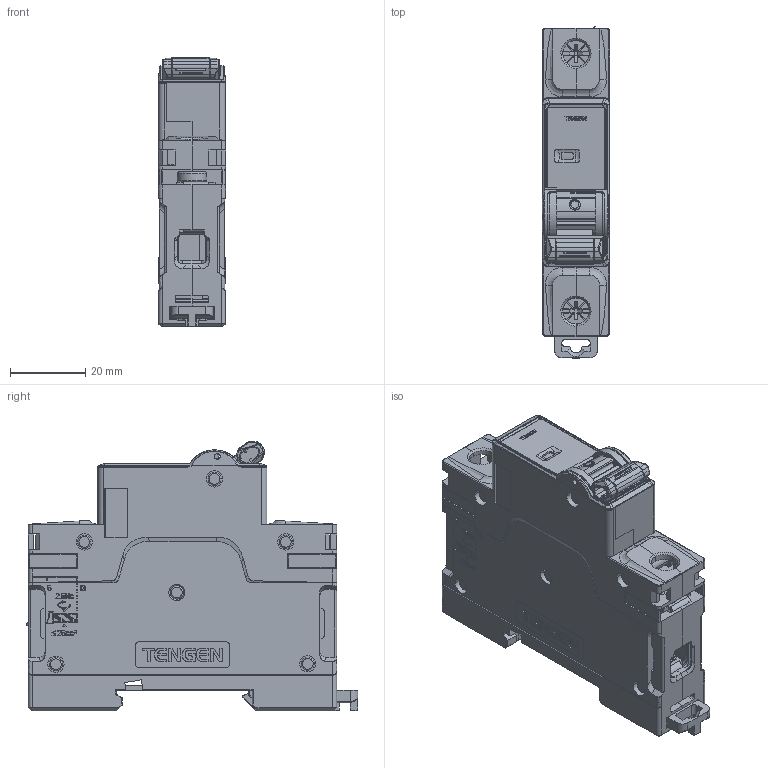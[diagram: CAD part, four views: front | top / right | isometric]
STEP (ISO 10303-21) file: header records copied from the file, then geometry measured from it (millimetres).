
FILE_DESCRIPTION (( 'STEP AP214' ), '1' );
FILE_NAME ('3D Model TGB3-63 1P.STEP', '2025-12-15T14:12:16', ( '' ), ( '' ), 'SwSTEP 2.0', 'SolidWorks 2024', '' );
FILE_SCHEMA (( 'AUTOMOTIVE_DESIGN' ));
Length unit declared in the file: millimetre
Products named in the file (6): 2TZD_250_6081_SW0003_1_1_AF0.stp; 2TZD_250_6081_SW0003_1_AF0_ASM.stp; 2TZD_250_6081_SW0003_1_AF0_ASM-0.stp; 2TZD_250_6081_SW0003_1_2.stp; 3D Model TGB3-63 1P.stp; 3D Model TGB3-63 1P
Assembly tree (5 placements, depth 4):
  3D Model TGB3-63 1P
    3D Model TGB3-63 1P.stp
      2TZD_250_6081_SW0003_1_AF0_ASM.stp
        2TZD_250_6081_SW0003_1_1_AF0.stp
        2TZD_250_6081_SW0003_1_2.stp
        2TZD_250_6081_SW0003_1_AF0_ASM-0.stp
Bounding box: 17.8 x 87.94 x 71.54 mm (x, y, z)
Volume: 16092.4 mm3; surface area: 47558.8 mm2
Topology: 5 solids, 7 shells, 6340 faces, 17084 edges, 10770 vertices
Faces by surface type: plane 4013, cylinder 1504, bspline 276, torus 239, sphere 189, cone 119
Entity records: 219289 total; most frequent: CARTESIAN_POINT 75311, ORIENTED_EDGE 33848, DIRECTION 23996, EDGE_CURVE 16926, VERTEX_POINT 10763, AXIS2_PLACEMENT_3D 8314, LINE 7368, VECTOR 7368
